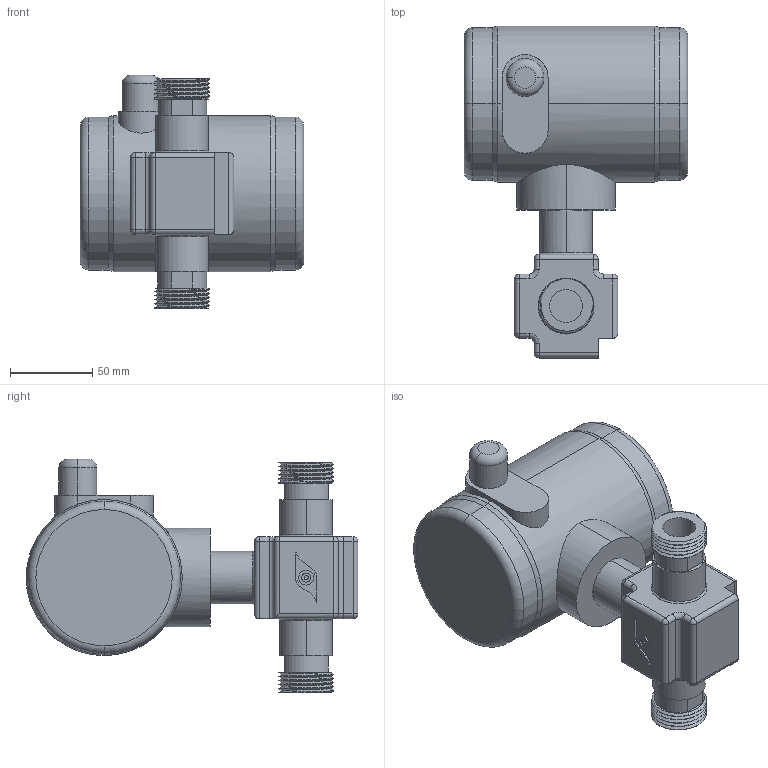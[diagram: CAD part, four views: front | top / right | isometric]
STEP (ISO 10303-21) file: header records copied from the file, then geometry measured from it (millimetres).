
FILE_DESCRIPTION (( 'STEP AP203' ), '1' );
FILE_NAME ('PC20-G1.STEP', '2015-11-09T07:05:37', ( '' ), ( '' ), 'SwSTEP 2.0', 'SolidWorks 2015', '' );
FILE_SCHEMA (( 'CONFIG_CONTROL_DESIGN' ));
Length unit declared in the file: millimetre
Products named in the file (2): PC20-G1
Bounding box: 136 x 202 x 142 mm (x, y, z)
Volume: 1245830.4 mm3; surface area: 95488.2 mm2
Topology: 1 solids, 1 shells, 203 faces, 484 edges, 295 vertices
Faces by surface type: cylinder 94, plane 63, bspline 14, torus 11, cone 11, sphere 10
Entity records: 8228 total; most frequent: CARTESIAN_POINT 3575, ORIENTED_EDGE 944, DIRECTION 934, EDGE_CURVE 472, AXIS2_PLACEMENT_3D 357, VERTEX_POINT 291, EDGE_LOOP 223, VECTOR 220
